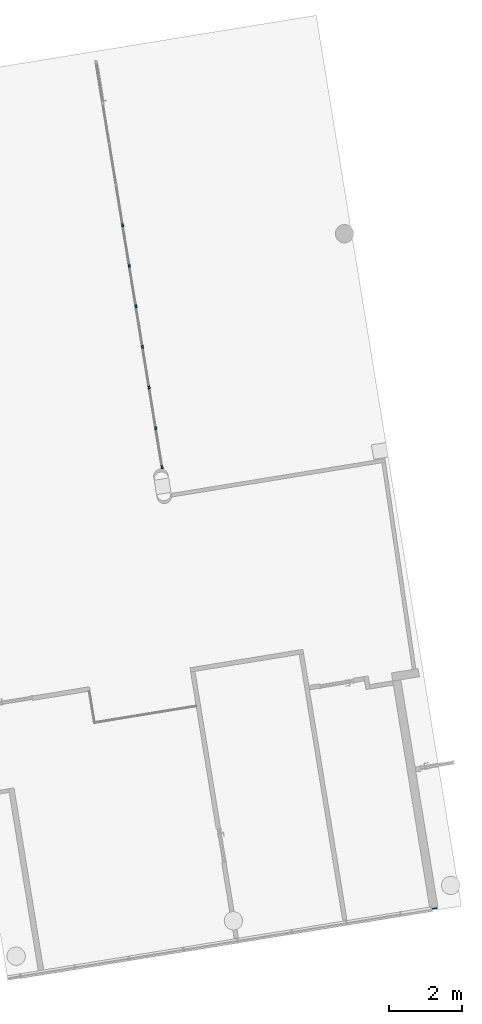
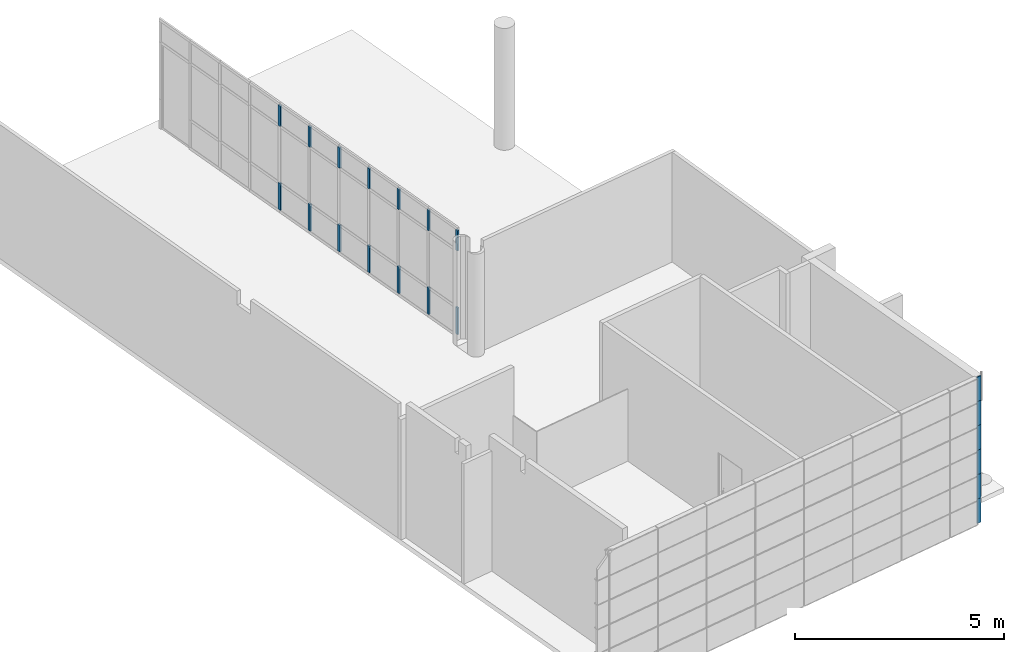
# One storey, part 5 of 18: 20 members, 2 elements without a shape of their own.
"""IFC2X3 building model written with IfcOpenShell, lengths in millimetres."""

from ifc_helpers import new_model, entity, si_unit, converted_unit, derived_unit, direction, frame, frame_2d, origin, origin_with_axes, origin_2d_with_axis, place, context, subcontext, project, spatial, rectangle, extrude, source, transform, mapped, material, type_object, element, aggregate, save


model = new_model("IFC2X3")

# Units and contexts
model_context = context("Model", 3, precision=0.01, world=origin(), true_north=direction((6.12323399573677e-17, 1.0)))
plan_context = context("Plan", 3, precision=1e-05, world=origin_with_axes())
body_context = subcontext(model_context, "Body", "Model", "MODEL_VIEW")
ifc_project = project(units=[converted_unit("PLANEANGLEUNIT", "DEGREE", entity("IfcPositiveLengthMeasure", 0.0174532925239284), si_unit("PLANEANGLEUNIT", "RADIAN"), dimensions=[0, 0, 0, 0, 0, 0, 0]), si_unit("AREAUNIT", "SQUARE_METRE"), si_unit("LENGTHUNIT", "METRE", prefix="MILLI"), si_unit("MASSUNIT", "GRAM", prefix="KILO"), si_unit("POWERUNIT", "WATT"), si_unit("PRESSUREUNIT", "PASCAL", prefix="KILO"), si_unit("FORCEUNIT", "NEWTON", prefix="KILO"), si_unit("ELECTRICVOLTAGEUNIT", "VOLT"), si_unit("ELECTRICCURRENTUNIT", "AMPERE"), si_unit("THERMODYNAMICTEMPERATUREUNIT", "DEGREE_CELSIUS"), si_unit("TIMEUNIT", "SECOND"), si_unit("VOLUMEUNIT", "CUBIC_METRE"), derived_unit("LINEARVELOCITYUNIT", [(si_unit("LENGTHUNIT", "METRE"), 1), (si_unit("TIMEUNIT", "SECOND"), -1)]), derived_unit("VOLUMETRICFLOWRATEUNIT", [(si_unit("VOLUMEUNIT", "CUBIC_METRE"), 1), (si_unit("TIMEUNIT", "SECOND"), -1)]), derived_unit("THERMALTRANSMITTANCEUNIT", [(si_unit("POWERUNIT", "WATT"), 1), (si_unit("THERMODYNAMICTEMPERATUREUNIT", "KELVIN"), -1), (si_unit("AREAUNIT", "SQUARE_METRE"), -1)]), derived_unit("SOUNDPRESSUREUNIT", [(si_unit("PRESSUREUNIT", "PASCAL"), 1)])], contexts=[model_context, plan_context])

# Site, building, storey
site_placement = place(None, frame((-305029.896016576, -232111.759730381, 0.0), z_axis=(0.0, 0.0, 1.0), x_axis=(-0.160806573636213, 0.986985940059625, 0.0)))
site = spatial("IfcSite", under=ifc_project, at=site_placement, Name="Default", CompositionType="ELEMENT")
building_placement = place(site_placement, frame((0.0, 0.0, 0.0), z_axis=(0.0, 0.0, 1.0), x_axis=(1.0, -2.77555756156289e-17, 0.0)))
building = spatial("IfcBuilding", under=site, at=building_placement, Name="br001-a-200-1-0001", CompositionType="ELEMENT")
storey_placement = place(building_placement, frame((0.0, 0.0, 55500.0), z_axis=(0.0, 0.0, 1.0), x_axis=(1.0, -2.77555756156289e-17, 0.0)))
storey = spatial("IfcBuildingStorey", under=building, at=storey_placement, Name="H02-Nivå F-3,5 m", CompositionType="ELEMENT", Elevation=55500.0)

# Curtain wall, members
curtain_wall_type_1 = type_object("IfcCurtainWallType", Name="Curtain Wall:Flesland int curt wall", PredefinedType="NOTDEFINED")
curtain_wall_1_placement = place(storey_placement, frame((0.0, 0.0, -55500.0), z_axis=(0.0, 0.0, 1.0), x_axis=(1.0, -2.77555756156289e-17, 0.0)))
curtain_wall_1 = element("IfcCurtainWall", 1, at=curtain_wall_1_placement, inside=storey, type_object=curtain_wall_type_1, Name="Curtain Wall:Flesland int curt wall", ObjectType="Curtain Wall:Flesland int curt wall")
ifc_material_1 = material(Name="Laminate - Ivory, Matte")
member_type_1 = type_object("IfcMemberType", Name="Rectangular Mullion:Flesland Int 25x125", PredefinedType="MULLION", material=ifc_material_1)
shared_shape_1 = source(origin(), body_context, "Body", "SweptSolid", [
    extrude(rectangle(XDim=25.0, YDim=125.0, at=frame_2d((0.0, 7.105427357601e-15), x_axis=(1.0, 0.0))), frame((-12.5, 0.0, -711.0), z_axis=(0.0, 0.0, 1.0), x_axis=(-1.0, 0.0, 0.0)), (0.0, 0.0, 1.0), 711.000000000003),
])
member_1_placement = place(curtain_wall_1_placement, frame((1172140.59858442, -734229.378367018, 54773.5), z_axis=(0.0, 0.0, -1.0), x_axis=(1.0, -2.77555756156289e-17, 0.0)))
member_1 = element("IfcMember", 2, at=member_1_placement, type_object=member_type_1, material=ifc_material_1, Name="Rectangular Mullion:Flesland Int 25x125", ObjectType="Rectangular Mullion:Flesland Int 25x125", context=body_context, shape_type="MappedRepresentation", body=[
    mapped(shared_shape_1, transform((0.0, 0.0, 0.0), scale=1.0)),
])
member_2_placement = place(curtain_wall_1_placement, frame((1172140.59858442, -734229.378367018, 55484.5), z_axis=(0.0, 0.0, -1.0), x_axis=(1.0, -2.77555756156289e-17, 0.0)))
member_2 = element("IfcMember", 3, at=member_2_placement, type_object=member_type_1, material=ifc_material_1, Name="Rectangular Mullion:Flesland Int 25x125", ObjectType="Rectangular Mullion:Flesland Int 25x125", context=body_context, shape_type="MappedRepresentation", body=[
    mapped(shared_shape_1, transform((0.0, 0.0, 0.0), scale=1.0)),
])
member_3_placement = place(curtain_wall_1_placement, frame((1172140.59858442, -734229.378367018, 56195.5), z_axis=(0.0, 0.0, -1.0), x_axis=(1.0, -2.77555756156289e-17, 0.0)))
member_3 = element("IfcMember", 4, at=member_3_placement, type_object=member_type_1, material=ifc_material_1, Name="Rectangular Mullion:Flesland Int 25x125", ObjectType="Rectangular Mullion:Flesland Int 25x125", context=body_context, shape_type="MappedRepresentation", body=[
    mapped(shared_shape_1, transform((0.0, 0.0, 0.0), scale=1.0)),
])
member_4_placement = place(curtain_wall_1_placement, frame((1172140.59858442, -734229.378367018, 56906.5), z_axis=(0.0, 0.0, -1.0), x_axis=(1.0, -2.77555756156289e-17, 0.0)))
member_4 = element("IfcMember", 5, at=member_4_placement, type_object=member_type_1, material=ifc_material_1, Name="Rectangular Mullion:Flesland Int 25x125", ObjectType="Rectangular Mullion:Flesland Int 25x125", context=body_context, shape_type="MappedRepresentation", body=[
    mapped(shared_shape_1, transform((0.0, 0.0, 0.0), scale=1.0)),
])
member_5_placement = place(curtain_wall_1_placement, frame((1172140.59858442, -734229.378367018, 57617.5), z_axis=(0.0, 0.0, -1.0), x_axis=(1.0, -2.77555756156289e-17, 0.0)))
member_5 = element("IfcMember", 6, at=member_5_placement, type_object=member_type_1, material=ifc_material_1, Name="Rectangular Mullion:Flesland Int 25x125", ObjectType="Rectangular Mullion:Flesland Int 25x125", context=body_context, shape_type="MappedRepresentation", body=[
    mapped(shared_shape_1, transform((0.0, 0.0, 0.0), scale=1.0)),
])
member_6_placement = place(curtain_wall_1_placement, frame((1172140.59858442, -734229.378367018, 58328.5), z_axis=(0.0, 0.0, -1.0), x_axis=(1.0, -2.77555756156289e-17, 0.0)))
member_6 = element("IfcMember", 7, at=member_6_placement, type_object=member_type_1, material=ifc_material_1, Name="Rectangular Mullion:Flesland Int 25x125", ObjectType="Rectangular Mullion:Flesland Int 25x125", context=body_context, shape_type="MappedRepresentation", body=[
    mapped(shared_shape_1, transform((0.0, 0.0, 0.0), scale=1.0)),
])
aggregate(curtain_wall_1, [member_1, member_2, member_3, member_4, member_5, member_6])

curtain_wall_type_2 = type_object("IfcCurtainWallType", Name="Curtain Wall:A243 Innvendig glassvegg", PredefinedType="NOTDEFINED")
curtain_wall_2_placement = place(storey_placement, frame((0.0, 0.0, -55500.0), z_axis=(0.0, 0.0, 1.0), x_axis=(1.0, -2.77555756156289e-17, 0.0)))
curtain_wall_2 = element("IfcCurtainWall", 8, at=curtain_wall_2_placement, inside=storey, type_object=curtain_wall_type_2, Name="Curtain Wall:A243 Innvendig glassvegg", ObjectType="Curtain Wall:A243 Innvendig glassvegg")
ifc_material_2 = material(Name="Metal - Aluminium")
member_type_2 = type_object("IfcMemberType", Name="Rectangular Mullion:80 x 50  mm", PredefinedType="MULLION", material=ifc_material_2)
shared_shape_2 = source(origin(), body_context, "Body", "SweptSolid", [
    extrude(rectangle(XDim=80.0, YDim=50.0, at=origin_2d_with_axis()), frame((-40.0, 0.0, -600.0), z_axis=(0.0, 0.0, 1.0), x_axis=(-1.0, 0.0, 0.0)), (0.0, 0.0, 1.0), 600.000000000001),
])
member_7_placement = place(curtain_wall_2_placement, frame((1185153.59858442, -728835.878367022, 58620.0), z_axis=(0.0, 0.0, 1.0), x_axis=(-1.0, 2.77555756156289e-17, 0.0)))
member_7 = element("IfcMember", 9, at=member_7_placement, type_object=member_type_2, material=ifc_material_2, Name="Rectangular Mullion:80 x 50  mm", ObjectType="Rectangular Mullion:80 x 50  mm", context=body_context, shape_type="MappedRepresentation", body=[
    mapped(shared_shape_2, transform((0.0, 0.0, 0.0), scale=1.0)),
])
member_type_3 = type_object("IfcMemberType", Name="Rectangular Mullion:80 x 50  mm", PredefinedType="MULLION", material=ifc_material_2)
shared_shape_3 = source(origin(), body_context, "Body", "SweptSolid", [
    extrude(rectangle(XDim=80.0, YDim=50.0, at=origin_2d_with_axis()), frame((0.0, 0.0, -780.0), z_axis=(0.0, 0.0, 1.0), x_axis=(-1.0, 0.0, 0.0)), (0.0, 0.0, 1.0), 780.000000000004),
])
member_8_placement = place(curtain_wall_2_placement, frame((1191878.59858442, -728835.878367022, 55580.0), z_axis=(0.0, 0.0, -1.0), x_axis=(1.0, -2.77555756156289e-17, 0.0)))
member_8 = element("IfcMember", 10, at=member_8_placement, type_object=member_type_3, material=ifc_material_2, Name="Rectangular Mullion:80 x 50  mm", ObjectType="Rectangular Mullion:80 x 50  mm", context=body_context, shape_type="MappedRepresentation", body=[
    mapped(shared_shape_3, transform((0.0, 0.0, 0.0), scale=1.0)),
])
member_9_placement = place(curtain_wall_2_placement, frame((1190753.59858442, -728835.878367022, 55580.0), z_axis=(0.0, 0.0, -1.0), x_axis=(1.0, -2.77555756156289e-17, 0.0)))
member_9 = element("IfcMember", 11, at=member_9_placement, type_object=member_type_3, material=ifc_material_2, Name="Rectangular Mullion:80 x 50  mm", ObjectType="Rectangular Mullion:80 x 50  mm", context=body_context, shape_type="MappedRepresentation", body=[
    mapped(shared_shape_3, transform((0.0, 0.0, 0.0), scale=1.0)),
])
member_10_placement = place(curtain_wall_2_placement, frame((1189638.59858442, -728835.878367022, 55580.0), z_axis=(0.0, 0.0, -1.0), x_axis=(1.0, -2.77555756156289e-17, 0.0)))
member_10 = element("IfcMember", 12, at=member_10_placement, type_object=member_type_3, material=ifc_material_2, Name="Rectangular Mullion:80 x 50  mm", ObjectType="Rectangular Mullion:80 x 50  mm", context=body_context, shape_type="MappedRepresentation", body=[
    mapped(shared_shape_3, transform((0.0, 0.0, 0.0), scale=1.0)),
])
member_11_placement = place(curtain_wall_2_placement, frame((1188518.59858442, -728835.878367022, 55580.0), z_axis=(0.0, 0.0, -1.0), x_axis=(1.0, -2.77555756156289e-17, 0.0)))
member_11 = element("IfcMember", 13, at=member_11_placement, type_object=member_type_3, material=ifc_material_2, Name="Rectangular Mullion:80 x 50  mm", ObjectType="Rectangular Mullion:80 x 50  mm", context=body_context, shape_type="MappedRepresentation", body=[
    mapped(shared_shape_3, transform((0.0, 0.0, 0.0), scale=1.0)),
])
member_12_placement = place(curtain_wall_2_placement, frame((1187396.93191775, -728835.878367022, 55580.0), z_axis=(0.0, 0.0, -1.0), x_axis=(1.0, -2.77555756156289e-17, 0.0)))
member_12 = element("IfcMember", 14, at=member_12_placement, type_object=member_type_3, material=ifc_material_2, Name="Rectangular Mullion:80 x 50  mm", ObjectType="Rectangular Mullion:80 x 50  mm", context=body_context, shape_type="MappedRepresentation", body=[
    mapped(shared_shape_3, transform((0.0, 0.0, 0.0), scale=1.0)),
])
member_13_placement = place(curtain_wall_2_placement, frame((1186275.26525108, -728835.878367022, 55580.0), z_axis=(0.0, 0.0, -1.0), x_axis=(1.0, -2.77555756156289e-17, 0.0)))
member_13 = element("IfcMember", 15, at=member_13_placement, type_object=member_type_3, material=ifc_material_2, Name="Rectangular Mullion:80 x 50  mm", ObjectType="Rectangular Mullion:80 x 50  mm", context=body_context, shape_type="MappedRepresentation", body=[
    mapped(shared_shape_3, transform((0.0, 0.0, 0.0), scale=1.0)),
])
member_type_4 = type_object("IfcMemberType", Name="Rectangular Mullion:80 x 50  mm", PredefinedType="MULLION", material=ifc_material_2)
shared_shape_4 = source(origin(), body_context, "Body", "SweptSolid", [
    extrude(rectangle(XDim=80.0, YDim=50.0, at=origin_2d_with_axis()), frame((-40.0, 0.0, -780.0), z_axis=(0.0, 0.0, 1.0), x_axis=(-1.0, 0.0, 0.0)), (0.0, 0.0, 1.0), 780.000000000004),
])
member_14_placement = place(curtain_wall_2_placement, frame((1185153.59858442, -728835.878367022, 56360.0), z_axis=(0.0, 0.0, 1.0), x_axis=(-1.0, 2.77555756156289e-17, 0.0)))
member_14 = element("IfcMember", 16, at=member_14_placement, type_object=member_type_4, material=ifc_material_2, Name="Rectangular Mullion:80 x 50  mm", ObjectType="Rectangular Mullion:80 x 50  mm", context=body_context, shape_type="MappedRepresentation", body=[
    mapped(shared_shape_4, transform((0.0, 0.0, 0.0), scale=1.0)),
])
member_type_5 = type_object("IfcMemberType", Name="Rectangular Mullion:80 x 50  mm", PredefinedType="MULLION", material=ifc_material_2)
shared_shape_5 = source(origin(), body_context, "Body", "SweptSolid", [
    extrude(rectangle(XDim=80.0, YDim=50.0, at=origin_2d_with_axis()), frame((0.0, 0.0, -600.0), z_axis=(0.0, 0.0, 1.0), x_axis=(-1.0, 0.0, 0.0)), (0.0, 0.0, 1.0), 600.000000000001),
])
member_15_placement = place(curtain_wall_2_placement, frame((1191878.59858442, -728835.878367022, 58020.0), z_axis=(0.0, 0.0, -1.0), x_axis=(1.0, -2.77555756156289e-17, 0.0)))
member_15 = element("IfcMember", 17, at=member_15_placement, type_object=member_type_5, material=ifc_material_2, Name="Rectangular Mullion:80 x 50  mm", ObjectType="Rectangular Mullion:80 x 50  mm", context=body_context, shape_type="MappedRepresentation", body=[
    mapped(shared_shape_5, transform((0.0, 0.0, 0.0), scale=1.0)),
])
member_16_placement = place(curtain_wall_2_placement, frame((1190753.59858442, -728835.878367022, 58020.0), z_axis=(0.0, 0.0, -1.0), x_axis=(1.0, -2.77555756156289e-17, 0.0)))
member_16 = element("IfcMember", 18, at=member_16_placement, type_object=member_type_5, material=ifc_material_2, Name="Rectangular Mullion:80 x 50  mm", ObjectType="Rectangular Mullion:80 x 50  mm", context=body_context, shape_type="MappedRepresentation", body=[
    mapped(shared_shape_5, transform((0.0, 0.0, 0.0), scale=1.0)),
])
member_17_placement = place(curtain_wall_2_placement, frame((1189638.59858442, -728835.878367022, 58020.0), z_axis=(0.0, 0.0, -1.0), x_axis=(1.0, -2.77555756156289e-17, 0.0)))
member_17 = element("IfcMember", 19, at=member_17_placement, type_object=member_type_5, material=ifc_material_2, Name="Rectangular Mullion:80 x 50  mm", ObjectType="Rectangular Mullion:80 x 50  mm", context=body_context, shape_type="MappedRepresentation", body=[
    mapped(shared_shape_5, transform((0.0, 0.0, 0.0), scale=1.0)),
])
member_18_placement = place(curtain_wall_2_placement, frame((1188518.59858442, -728835.878367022, 58020.0), z_axis=(0.0, 0.0, -1.0), x_axis=(1.0, -2.77555756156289e-17, 0.0)))
member_18 = element("IfcMember", 20, at=member_18_placement, type_object=member_type_5, material=ifc_material_2, Name="Rectangular Mullion:80 x 50  mm", ObjectType="Rectangular Mullion:80 x 50  mm", context=body_context, shape_type="MappedRepresentation", body=[
    mapped(shared_shape_5, transform((0.0, 0.0, 0.0), scale=1.0)),
])
member_19_placement = place(curtain_wall_2_placement, frame((1187396.93191775, -728835.878367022, 58020.0), z_axis=(0.0, 0.0, -1.0), x_axis=(1.0, -2.77555756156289e-17, 0.0)))
member_19 = element("IfcMember", 21, at=member_19_placement, type_object=member_type_5, material=ifc_material_2, Name="Rectangular Mullion:80 x 50  mm", ObjectType="Rectangular Mullion:80 x 50  mm", context=body_context, shape_type="MappedRepresentation", body=[
    mapped(shared_shape_5, transform((0.0, 0.0, 0.0), scale=1.0)),
])
member_20_placement = place(curtain_wall_2_placement, frame((1186275.26525108, -728835.878367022, 58020.0), z_axis=(0.0, 0.0, -1.0), x_axis=(1.0, -2.77555756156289e-17, 0.0)))
member_20 = element("IfcMember", 22, at=member_20_placement, type_object=member_type_5, material=ifc_material_2, Name="Rectangular Mullion:80 x 50  mm", ObjectType="Rectangular Mullion:80 x 50  mm", context=body_context, shape_type="MappedRepresentation", body=[
    mapped(shared_shape_5, transform((0.0, 0.0, 0.0), scale=1.0)),
])
aggregate(curtain_wall_2, [member_7, member_8, member_9, member_10, member_11, member_12, member_13, member_14, member_15, member_16, member_17, member_18, member_19, member_20])

save(model, "model.ifc")
